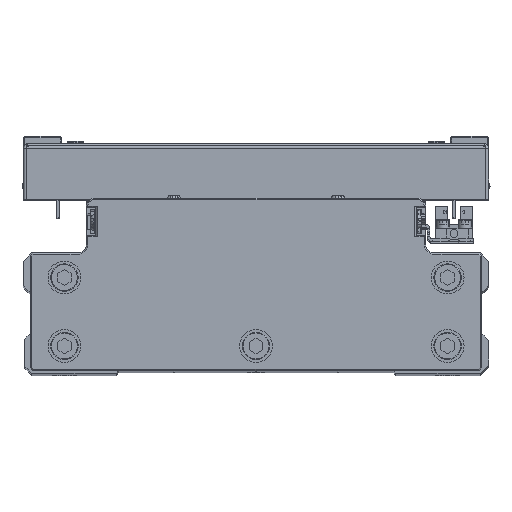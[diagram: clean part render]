
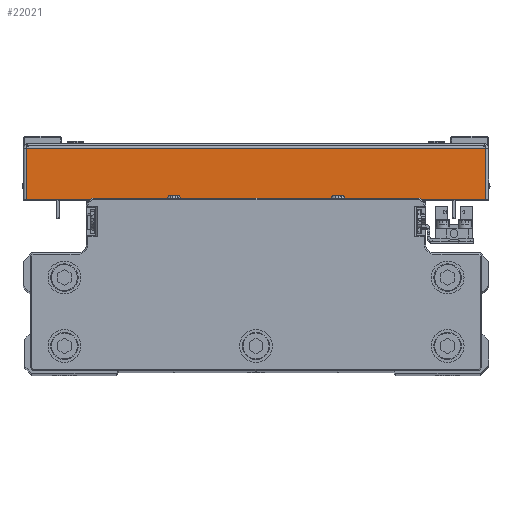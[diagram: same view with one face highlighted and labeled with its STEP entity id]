
A CAD part, top view. The second image highlights one B-rep face of the part: STEP entity #22021.
In plain terms, the highlighted planar face has unit normal (0, 0, 1) as drawn and (1, 0, 0) by its records, which use the part's own axes.
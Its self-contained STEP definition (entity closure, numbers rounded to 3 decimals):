
#3085 = ORIENTED_EDGE ( 'NONE', *, *, #11779, .T. ) ;
#4055 = DIRECTION ( 'NONE',  ( 0., 1., 0. ) ) ;
#4633 = CARTESIAN_POINT ( 'NONE',  ( 110., 19.5, 83.929 ) ) ;
#4860 = ORIENTED_EDGE ( 'NONE', *, *, #27296, .F. ) ;
#6265 = DIRECTION ( 'NONE',  ( 0., -1., 0. ) ) ;
#8961 = CARTESIAN_POINT ( 'NONE',  ( 110., 1., 85. ) ) ;
#9645 = PLANE ( 'NONE',  #10144 ) ;
#10144 = AXIS2_PLACEMENT_3D ( 'NONE', #23334, #36964, #6265 ) ;
#10184 = DIRECTION ( 'NONE',  ( 0., 1., 0. ) ) ;
#10273 = LINE ( 'NONE', #23943, #41866 ) ;
#11779 = EDGE_CURVE ( 'NONE', #29496, #30144, #27212, .T. ) ;
#16177 = CARTESIAN_POINT ( 'NONE',  ( 110., 1., -83.929 ) ) ;
#17438 = EDGE_CURVE ( 'NONE', #29496, #39053, #39640, .T. ) ;
#21137 = LINE ( 'NONE', #34765, #25795 ) ;
#21444 = ORIENTED_EDGE ( 'NONE', *, *, #17438, .F. ) ;
#22021 = ADVANCED_FACE ( 'NONE', ( #40322 ), #9645, .F. ) ;
#22655 = DIRECTION ( 'NONE',  ( 0., 0., 1. ) ) ;
#23334 = CARTESIAN_POINT ( 'NONE',  ( 110., 0., 0. ) ) ;
#23943 = CARTESIAN_POINT ( 'NONE',  ( 110., 19.5, 0. ) ) ;
#25795 = VECTOR ( 'NONE', #4055, 1000. ) ;
#27212 = LINE ( 'NONE', #40854, #37553 ) ;
#27296 = EDGE_CURVE ( 'NONE', #39053, #34426, #21137, .T. ) ;
#28517 = ORIENTED_EDGE ( 'NONE', *, *, #31120, .T. ) ;
#29496 = VERTEX_POINT ( 'NONE', #16177 ) ;
#29592 = VECTOR ( 'NONE', #22655, 1000. ) ;
#30144 = VERTEX_POINT ( 'NONE', #38845 ) ;
#31120 = EDGE_CURVE ( 'NONE', #30144, #34426, #10273, .T. ) ;
#32918 = CARTESIAN_POINT ( 'NONE',  ( 110., 1., 83.929 ) ) ;
#34426 = VERTEX_POINT ( 'NONE', #4633 ) ;
#34765 = CARTESIAN_POINT ( 'NONE',  ( 110., 0., 83.929 ) ) ;
#36964 = DIRECTION ( 'NONE',  ( -1., 0., 0. ) ) ;
#37553 = VECTOR ( 'NONE', #10184, 1000. ) ;
#37580 = DIRECTION ( 'NONE',  ( 0., 0., 1. ) ) ;
#38845 = CARTESIAN_POINT ( 'NONE',  ( 110., 19.5, -83.929 ) ) ;
#39053 = VERTEX_POINT ( 'NONE', #32918 ) ;
#39640 = LINE ( 'NONE', #8961, #29592 ) ;
#40322 = FACE_OUTER_BOUND ( 'NONE', #41139, .T. ) ;
#40854 = CARTESIAN_POINT ( 'NONE',  ( 110., 0., -83.929 ) ) ;
#41139 = EDGE_LOOP ( 'NONE', ( #21444, #3085, #28517, #4860 ) ) ;
#41866 = VECTOR ( 'NONE', #37580, 1000. ) ;
